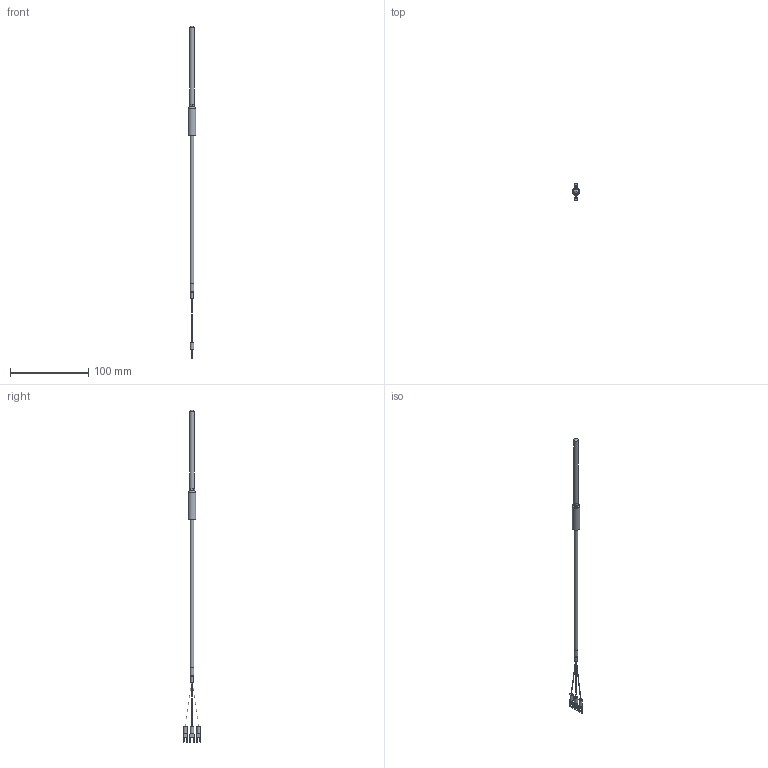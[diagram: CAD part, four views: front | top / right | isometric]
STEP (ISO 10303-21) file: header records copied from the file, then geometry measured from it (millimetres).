
FILE_DESCRIPTION (( 'STEP AP203' ), '1' );
FILE_NAME ('YIR101-6(0).STEP', '2024-09-26T07:43:39', ( '' ), ( '' ), 'SwSTEP 2.0', 'SolidWorks 2021', '' );
FILE_SCHEMA (( 'CONFIG_CONTROL_DESIGN' ));
Length unit declared in the file: millimetre
Products named in the file (1): YIR101-6(0)
Bounding box: 10 x 22.96 x 424.72 mm (x, y, z)
Volume: 10000.8 mm3; surface area: 7387.5 mm2
Topology: 1 solids, 1 shells, 88 faces, 217 edges, 142 vertices
Faces by surface type: plane 46, cylinder 30, bspline 8, cone 3, torus 1
Full cylindrical faces by diameter (mm): 0.5 x1, 3.16 x1, 4.5 x3, 4.8 x1, 5 x1, 6 x1, 10 x1
Entity records: 2757 total; most frequent: CARTESIAN_POINT 671, DIRECTION 412, ORIENTED_EDGE 394, EDGE_CURVE 197, AXIS2_PLACEMENT_3D 146, VERTEX_POINT 137, VECTOR 120, LINE 120
